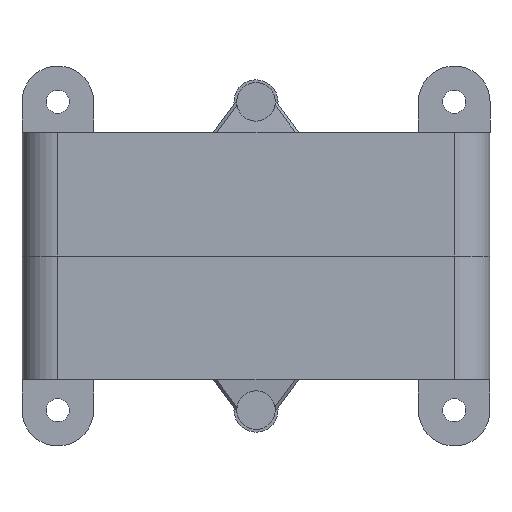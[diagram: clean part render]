
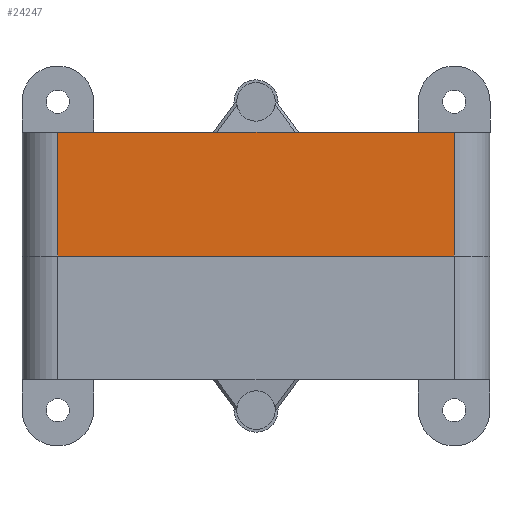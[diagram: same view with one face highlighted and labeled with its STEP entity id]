
A CAD part, front view. The second image highlights one B-rep face of the part: STEP entity #24247.
In plain terms, the highlighted planar face has unit normal (0, -1, 0).
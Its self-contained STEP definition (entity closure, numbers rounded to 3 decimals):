
#1702 = DIRECTION ( 'NONE',  ( 0., 0., -1. ) ) ;
#2070 = VECTOR ( 'NONE', #32828, 1000. ) ;
#2647 = EDGE_CURVE ( 'NONE', #46341, #14143, #7410, .T. ) ;
#3461 = DIRECTION ( 'NONE',  ( 0., 0., 1. ) ) ;
#5211 = CARTESIAN_POINT ( 'NONE',  ( 36., 0., 0. ) ) ;
#7410 = LINE ( 'NONE', #18658, #50377 ) ;
#12639 = ORIENTED_EDGE ( 'NONE', *, *, #17216, .F. ) ;
#12644 = ORIENTED_EDGE ( 'NONE', *, *, #40867, .T. ) ;
#13126 = CARTESIAN_POINT ( 'NONE',  ( 42.5, 0., 22.5 ) ) ;
#14143 = VERTEX_POINT ( 'NONE', #46292 ) ;
#15966 = CARTESIAN_POINT ( 'NONE',  ( -36., 0., 22.5 ) ) ;
#16315 = VERTEX_POINT ( 'NONE', #41807 ) ;
#17216 = EDGE_CURVE ( 'NONE', #43128, #14143, #40326, .T. ) ;
#18658 = CARTESIAN_POINT ( 'NONE',  ( 36., 0., 22.5 ) ) ;
#24003 = EDGE_CURVE ( 'NONE', #43128, #16315, #41502, .T. ) ;
#24247 = ADVANCED_FACE ( 'NONE', ( #32051 ), #40406, .F. ) ;
#24708 = CARTESIAN_POINT ( 'NONE',  ( 42.5, 0., 22.5 ) ) ;
#24883 = DIRECTION ( 'NONE',  ( 1., 0., 0. ) ) ;
#26013 = AXIS2_PLACEMENT_3D ( 'NONE', #24708, #36486, #28110 ) ;
#28110 = DIRECTION ( 'NONE',  ( 0., 0., 1. ) ) ;
#32051 = FACE_OUTER_BOUND ( 'NONE', #48318, .T. ) ;
#32828 = DIRECTION ( 'NONE',  ( 1., 0., 0. ) ) ;
#36279 = VECTOR ( 'NONE', #24883, 1000. ) ;
#36486 = DIRECTION ( 'NONE',  ( 0., 1., 0. ) ) ;
#40326 = LINE ( 'NONE', #13126, #36279 ) ;
#40406 = PLANE ( 'NONE',  #26013 ) ;
#40867 = EDGE_CURVE ( 'NONE', #16315, #46341, #44865, .T. ) ;
#41209 = ORIENTED_EDGE ( 'NONE', *, *, #2647, .T. ) ;
#41502 = LINE ( 'NONE', #45668, #44391 ) ;
#41807 = CARTESIAN_POINT ( 'NONE',  ( -36., 0., 0. ) ) ;
#43128 = VERTEX_POINT ( 'NONE', #15966 ) ;
#44391 = VECTOR ( 'NONE', #1702, 1000. ) ;
#44865 = LINE ( 'NONE', #48779, #2070 ) ;
#45668 = CARTESIAN_POINT ( 'NONE',  ( -36., 0., 0. ) ) ;
#46292 = CARTESIAN_POINT ( 'NONE',  ( 36., 0., 22.5 ) ) ;
#46341 = VERTEX_POINT ( 'NONE', #5211 ) ;
#48318 = EDGE_LOOP ( 'NONE', ( #12644, #41209, #12639, #49991 ) ) ;
#48779 = CARTESIAN_POINT ( 'NONE',  ( 42.5, 0., 0. ) ) ;
#49991 = ORIENTED_EDGE ( 'NONE', *, *, #24003, .T. ) ;
#50377 = VECTOR ( 'NONE', #3461, 1000. ) ;
